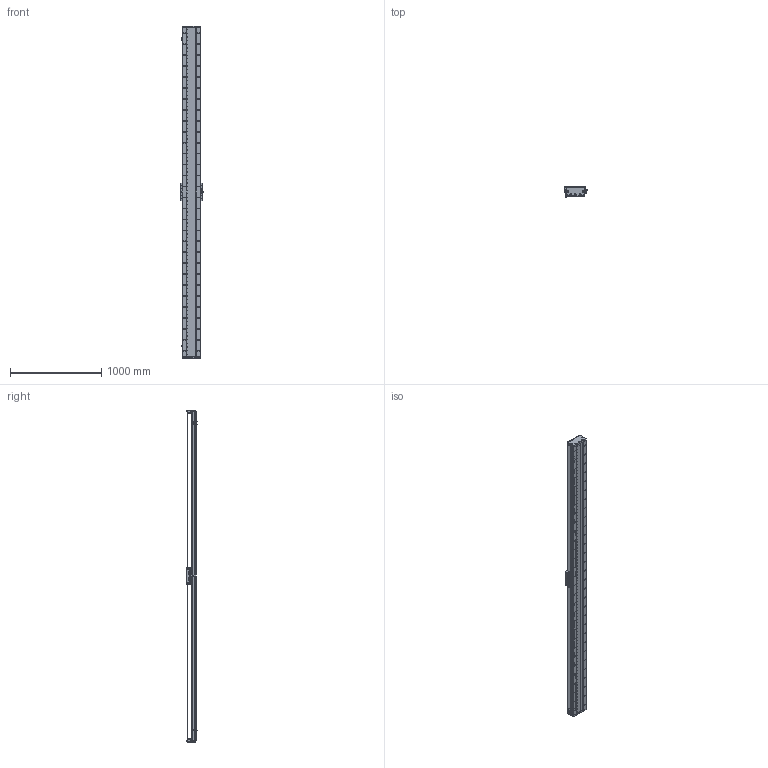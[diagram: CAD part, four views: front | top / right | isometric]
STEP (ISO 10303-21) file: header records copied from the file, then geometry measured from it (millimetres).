
FILE_DESCRIPTION (( 'STEP AP203' ), '1' );
FILE_NAME ('DA-C195-C2-T3360-C010-0.2 眻盄萇儂.STEP', '2025-08-15T01:19:16', ( '' ), ( '' ), 'SwSTEP 2.0', 'SolidWorks 2019', '' );
FILE_SCHEMA (( 'CONFIG_CONTROL_DESIGN' ));
Length unit declared in the file: millimetre
Products named in the file (15): DA-C195-C2-T3360-C010-0.2 眻盄萇儂; IU-CU195-L 菁釱絳寢; DA195詩湍嶺輸; DA-C195-GD-DB-H-00 傷啣; DA165-GYP-00 光电感应片(默认); PM-T45ㄗ侂狟ㄘ; LMT黍杅芛; CU195-C2賑輸-俋楷; DA195詩湍裔啣; MS200 棠掑喜S315-T1740; IU-CU195-L-00 菁釱(L3600); DA95-HXJ-00 遣喳砎蝶; DA195詩湍菜輸; DA195詩湍郪璃; 葩璃 DA95-GT-T-00
Assembly tree (29 placements, depth 3):
  DA-C195-C2-T3360-C010-0.2 眻盄萇儂
    DA195詩湍郪璃
      DA195詩湍菜輸  x2
      DA195詩湍裔啣
      DA195詩湍嶺輸  x2
      DA95-HXJ-00 遣喳砎蝶  x8
      DA-C195-GD-DB-H-00 傷啣  x2
    IU-CU195-L 菁釱絳寢
      IU-CU195-L-00 菁釱(L3600)
      葩璃 DA95-GT-T-00  x4
    LMT黍杅芛
    MS200 棠掑喜S315-T1740
    PM-T45ㄗ侂狟ㄘ  x3
    DA165-GYP-00 光电感应片(默认)
    CU195-C2賑輸-俋楷
Bounding box: 248 x 115.45 x 3640 mm (x, y, z)
Volume: 20185042.4 mm3; surface area: 6035944.1 mm2
Topology: 66 solids, 130 shells, 4802 faces, 13843 edges, 8775 vertices
Faces by surface type: cylinder 2767, plane 1417, cone 530, torus 52, sphere 36
Entity records: 161981 total; most frequent: CARTESIAN_POINT 46594, ORIENTED_EDGE 24570, DIRECTION 22952, EDGE_CURVE 12285, AXIS2_PLACEMENT_3D 8649, VERTEX_POINT 7977, LINE 5654, VECTOR 5654
